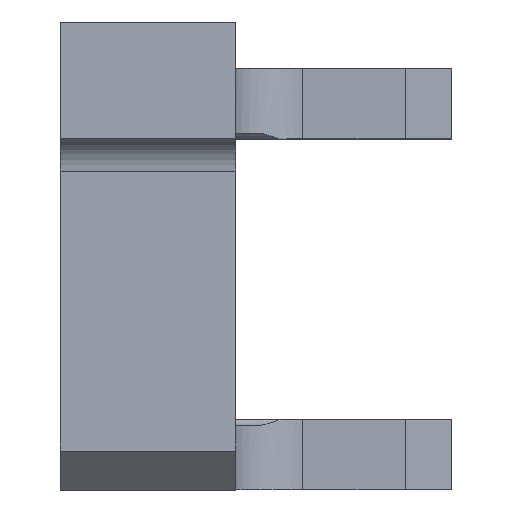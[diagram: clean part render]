
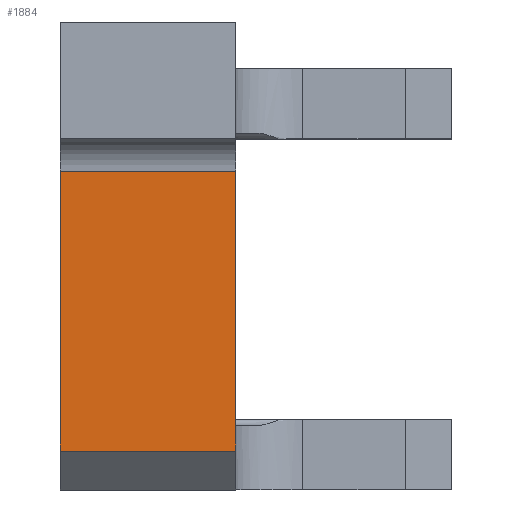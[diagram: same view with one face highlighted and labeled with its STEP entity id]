
A CAD part, left-side view. The second image highlights one B-rep face of the part: STEP entity #1884.
In plain terms, the highlighted free-form (B-spline) face has degree [1, 1] with [2, 2] control points.
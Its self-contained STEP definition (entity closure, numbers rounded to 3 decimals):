
#645=CARTESIAN_POINT('',(-80.866,8.585,4.663));
#646=VERTEX_POINT('',#645);
#752=CARTESIAN_POINT('',(-80.866,8.585,52.5));
#753=VERTEX_POINT('',#752);
#761=CARTESIAN_POINT('',(-80.866,8.585,52.5));
#762=DIRECTION('',(0.0,0.0,-1.0));
#763=VECTOR('',#762,47.837);
#764=LINE('',#761,#763);
#765=EDGE_CURVE('',#753,#646,#764,.T.);
#1370=CARTESIAN_POINT('',(-80.866,38.585,4.663));
#1371=VERTEX_POINT('',#1370);
#1378=CARTESIAN_POINT('',(-80.866,38.585,52.5));
#1379=VERTEX_POINT('',#1378);
#1380=CARTESIAN_POINT('',(-80.866,38.585,4.663));
#1381=DIRECTION('',(0.0,0.0,1.0));
#1382=VECTOR('',#1381,47.837);
#1383=LINE('',#1380,#1382);
#1384=EDGE_CURVE('',#1371,#1379,#1383,.T.);
#1857=CARTESIAN_POINT('',(-80.866,8.585,4.663));
#1858=DIRECTION('',(0.0,1.0,0.0));
#1859=VECTOR('',#1858,30.);
#1860=LINE('',#1857,#1859);
#1861=EDGE_CURVE('',#646,#1371,#1860,.T.);
#1868=CARTESIAN_POINT('',(-80.866,38.585,4.663));
#1869=CARTESIAN_POINT('',(-80.866,38.585,52.5));
#1870=CARTESIAN_POINT('',(-80.866,8.585,4.663));
#1871=CARTESIAN_POINT('',(-80.866,8.585,52.5));
#1872=B_SPLINE_SURFACE_WITH_KNOTS('',1,1,((#1868,#1870),(#1869,#1871)),.UNSPECIFIED.,.F.,.F.,.U.,(2,2),(2,2),(0.0,47.837),(0.0,30.),.UNSPECIFIED.);
#1873=ORIENTED_EDGE('',*,*,#765,.F.);
#1874=CARTESIAN_POINT('',(-80.866,8.585,52.5));
#1875=DIRECTION('',(0.0,1.0,0.0));
#1876=VECTOR('',#1875,30.);
#1877=LINE('',#1874,#1876);
#1878=EDGE_CURVE('',#753,#1379,#1877,.T.);
#1879=ORIENTED_EDGE('',*,*,#1878,.T.);
#1880=ORIENTED_EDGE('',*,*,#1384,.F.);
#1881=ORIENTED_EDGE('',*,*,#1861,.F.);
#1882=EDGE_LOOP('',(#1873,#1879,#1880,#1881));
#1883=FACE_OUTER_BOUND('',#1882,.T.);
#1884=ADVANCED_FACE('',(#1883),#1872,.F.);
